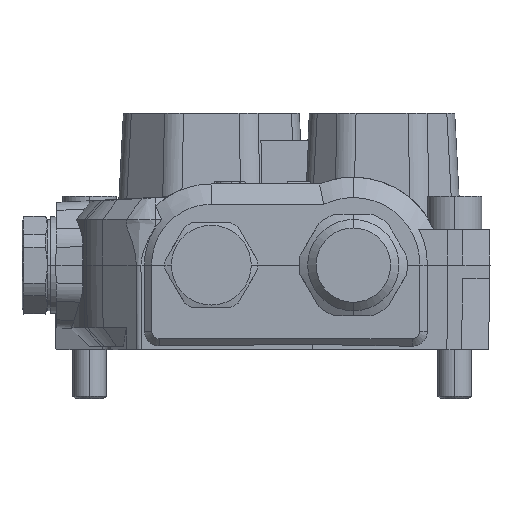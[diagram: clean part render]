
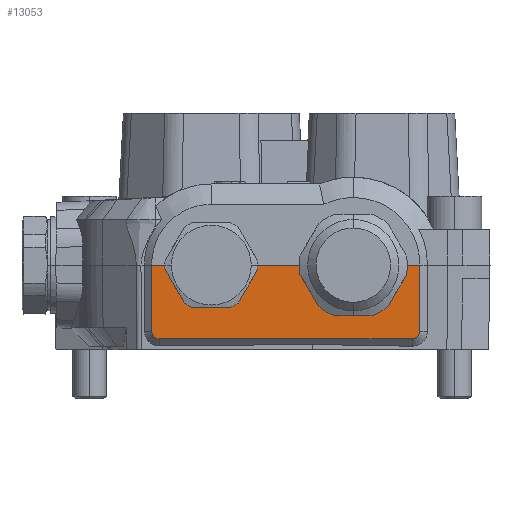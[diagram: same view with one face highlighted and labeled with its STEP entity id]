
A CAD part, left-side view. The second image highlights one B-rep face of the part: STEP entity #13053.
In plain terms, the highlighted planar face has unit normal (-1, 0, -0.018).
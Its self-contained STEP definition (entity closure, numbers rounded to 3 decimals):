
#896 = EDGE_CURVE ( 'NONE', #23607, #24862, #3773, .T. ) ;
#1262 = EDGE_LOOP ( 'NONE', ( #16592, #23214, #33459, #24973, #17770, #17629 ) ) ;
#1971 = DIRECTION ( 'NONE',  ( 0., 1., 0. ) ) ;
#2173 = EDGE_CURVE ( 'NONE', #28427, #24618, #28794, .T. ) ;
#2779 = VECTOR ( 'NONE', #8367, 1000. ) ;
#3773 = LINE ( 'NONE', #15859, #5640 ) ;
#3908 = EDGE_CURVE ( 'NONE', #21234, #8540, #11816, .T. ) ;
#5085 = CARTESIAN_POINT ( 'NONE',  ( -70.72, -30.722, -21.78 ) ) ;
#5640 = VECTOR ( 'NONE', #26934, 1000. ) ;
#7923 = EDGE_CURVE ( 'NONE', #23607, #24618, #18811, .T. ) ;
#8276 = DIRECTION ( 'NONE',  ( 0., 1., 0. ) ) ;
#8367 = DIRECTION ( 'NONE',  ( -0.017, 0., 1. ) ) ;
#8540 = VERTEX_POINT ( 'NONE', #26184 ) ;
#8603 = PLANE ( 'NONE',  #9447 ) ;
#8729 = CARTESIAN_POINT ( 'NONE',  ( -71.1, 0., 0. ) ) ;
#8972 = DIRECTION ( 'NONE',  ( -1., 0., -0.017 ) ) ;
#8994 = CARTESIAN_POINT ( 'NONE',  ( -70.72, -29.409, -21.78 ) ) ;
#9447 = AXIS2_PLACEMENT_3D ( 'NONE', #8729, #8972, #32258 ) ;
#10343 = CARTESIAN_POINT ( 'NONE',  ( -70.72, 45.409, -21.78 ) ) ;
#11335 = VECTOR ( 'NONE', #1971, 1000. ) ;
#11816 = LINE ( 'NONE', #36882, #11335 ) ;
#13053 = ADVANCED_FACE ( 'NONE', ( #37639 ), #8603, .T. ) ;
#14002 = CARTESIAN_POINT ( 'NONE',  ( -70.759, -31.65, -19.539 ) ) ;
#14190 = EDGE_CURVE ( 'NONE', #8540, #28427, #19276, .T. ) ;
#15859 = CARTESIAN_POINT ( 'NONE',  ( -71.09, -31.65, -0.591 ) ) ;
#16592 = ORIENTED_EDGE ( 'NONE', *, *, #896, .F. ) ;
#17437 = VECTOR ( 'NONE', #8276, 1000. ) ;
#17629 = ORIENTED_EDGE ( 'NONE', *, *, #20033, .F. ) ;
#17770 = ORIENTED_EDGE ( 'NONE', *, *, #3908, .F. ) ;
#18811 = LINE ( 'NONE', #23157, #17437 ) ;
#19276 =( BOUNDED_CURVE ( )  B_SPLINE_CURVE ( 3, ( #10343, #24859, #30209, #21410 ),
 .UNSPECIFIED., .F., .F. ) 
 B_SPLINE_CURVE_WITH_KNOTS ( ( 4, 4 ),
 ( 0., 1.571 ),
 .UNSPECIFIED. ) 
 CURVE ( )  GEOMETRIC_REPRESENTATION_ITEM ( )  RATIONAL_B_SPLINE_CURVE ( ( 1., 0.805, 0.805, 1. ) ) 
 REPRESENTATION_ITEM ( '' )  );
#20033 = EDGE_CURVE ( 'NONE', #24862, #21234, #31386, .T. ) ;
#20320 = CARTESIAN_POINT ( 'NONE',  ( -71.085, 47.65, -0.87 ) ) ;
#21234 = VERTEX_POINT ( 'NONE', #8994 ) ;
#21410 = CARTESIAN_POINT ( 'NONE',  ( -70.759, 47.65, -19.539 ) ) ;
#23157 = CARTESIAN_POINT ( 'NONE',  ( -71.1, 0., 0. ) ) ;
#23214 = ORIENTED_EDGE ( 'NONE', *, *, #7923, .T. ) ;
#23607 = VERTEX_POINT ( 'NONE', #30097 ) ;
#24618 = VERTEX_POINT ( 'NONE', #28471 ) ;
#24859 = CARTESIAN_POINT ( 'NONE',  ( -70.72, 46.722, -21.78 ) ) ;
#24862 = VERTEX_POINT ( 'NONE', #14002 ) ;
#24973 = ORIENTED_EDGE ( 'NONE', *, *, #14190, .F. ) ;
#25079 = CARTESIAN_POINT ( 'NONE',  ( -70.72, -29.409, -21.78 ) ) ;
#26184 = CARTESIAN_POINT ( 'NONE',  ( -70.72, 45.409, -21.78 ) ) ;
#26934 = DIRECTION ( 'NONE',  ( 0.017, 0., -1. ) ) ;
#28266 = CARTESIAN_POINT ( 'NONE',  ( -70.759, -31.65, -19.539 ) ) ;
#28427 = VERTEX_POINT ( 'NONE', #31838 ) ;
#28471 = CARTESIAN_POINT ( 'NONE',  ( -71.1, 47.65, 0. ) ) ;
#28794 = LINE ( 'NONE', #20320, #2779 ) ;
#30097 = CARTESIAN_POINT ( 'NONE',  ( -71.1, -31.65, 0. ) ) ;
#30209 = CARTESIAN_POINT ( 'NONE',  ( -70.736, 47.65, -20.852 ) ) ;
#31386 =( BOUNDED_CURVE ( )  B_SPLINE_CURVE ( 3, ( #28266, #37151, #5085, #25079 ),
 .UNSPECIFIED., .F., .F. ) 
 B_SPLINE_CURVE_WITH_KNOTS ( ( 4, 4 ),
 ( 4.712, 6.283 ),
 .UNSPECIFIED. ) 
 CURVE ( )  GEOMETRIC_REPRESENTATION_ITEM ( )  RATIONAL_B_SPLINE_CURVE ( ( 1., 0.805, 0.805, 1. ) ) 
 REPRESENTATION_ITEM ( '' )  );
#31838 = CARTESIAN_POINT ( 'NONE',  ( -70.759, 47.65, -19.539 ) ) ;
#32258 = DIRECTION ( 'NONE',  ( -0.017, 0., 1. ) ) ;
#33459 = ORIENTED_EDGE ( 'NONE', *, *, #2173, .F. ) ;
#36882 = CARTESIAN_POINT ( 'NONE',  ( -70.72, 0., -21.78 ) ) ;
#37151 = CARTESIAN_POINT ( 'NONE',  ( -70.736, -31.65, -20.852 ) ) ;
#37639 = FACE_OUTER_BOUND ( 'NONE', #1262, .T. ) ;
